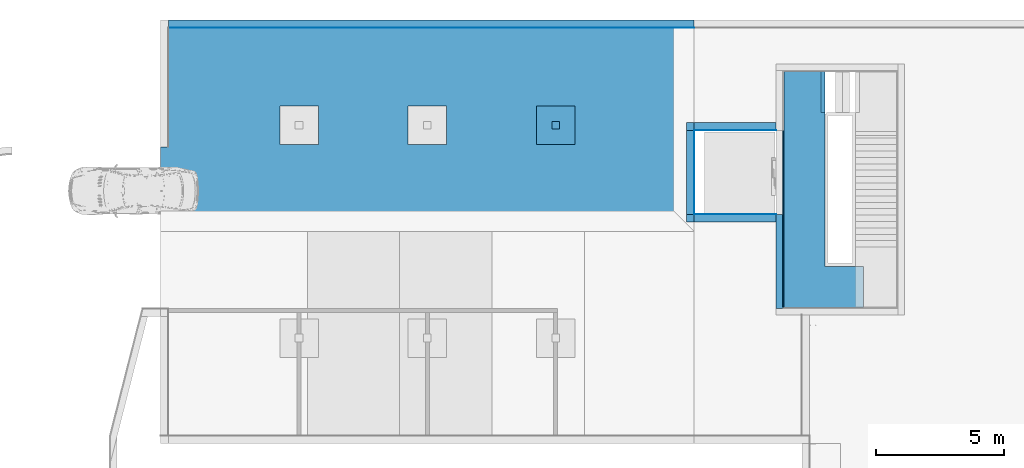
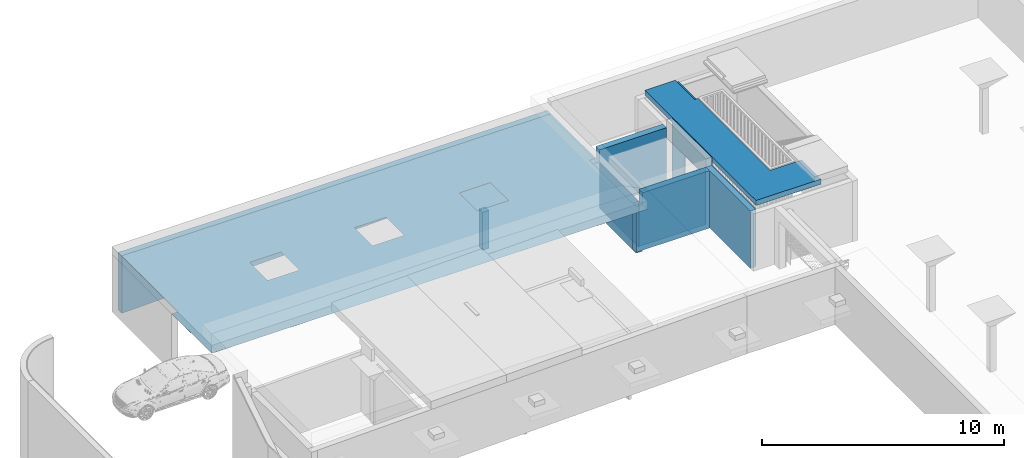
# One storey, part 5 of 7: 16 building element parts, 1 opening, 9 elements without a shape of their own.
"""IFC4 building model written with IfcOpenShell, lengths in millimetres."""

from ifc_helpers import new_model, entity, si_unit, converted_unit, derived_unit, direction, frame, origin_with_axes, place, context, subcontext, project, spatial, polygons, material, type_object, element, aggregate, save


model = new_model("IFC4")

# Units and contexts
model_context = context("Model", 3, precision=0.01, world=origin_with_axes(), true_north=direction((0.0, 1.0)))
body_context = subcontext(model_context, "Body", "Model", "MODEL_VIEW")
ifc_project = project(units=[si_unit("LENGTHUNIT", "METRE", prefix="MILLI"), si_unit("AREAUNIT", "SQUARE_METRE"), si_unit("VOLUMEUNIT", "CUBIC_METRE"), converted_unit("PLANEANGLEUNIT", "DEGREE", entity("IfcPlaneAngleMeasure", 0.0174532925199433), si_unit("PLANEANGLEUNIT", "RADIAN"), dimensions=[0, 0, 0, 0, 0, 0, 0]), converted_unit("TIMEUNIT", "Year", entity("IfcTimeMeasure", 31557600.0), si_unit("TIMEUNIT", "SECOND"), dimensions=[0, 0, 1, 0, 0, 0, 0]), si_unit("MASSUNIT", "GRAM", prefix="KILO"), si_unit("THERMODYNAMICTEMPERATUREUNIT", "DEGREE_CELSIUS"), si_unit("LUMINOUSINTENSITYUNIT", "LUMEN"), si_unit("ENERGYUNIT", "JOULE", prefix="MEGA"), derived_unit("THERMALCONDUCTANCEUNIT", [(si_unit("POWERUNIT", "WATT"), 1), (si_unit("LENGTHUNIT", "METRE"), -1), (si_unit("THERMODYNAMICTEMPERATUREUNIT", "KELVIN"), -1)]), derived_unit("SPECIFICHEATCAPACITYUNIT", [(si_unit("ENERGYUNIT", "JOULE"), 1), (si_unit("MASSUNIT", "GRAM", prefix="KILO"), -1), (si_unit("THERMODYNAMICTEMPERATUREUNIT", "KELVIN"), -1)]), derived_unit("MASSDENSITYUNIT", [(si_unit("MASSUNIT", "GRAM", prefix="KILO"), 1), (si_unit("VOLUMEUNIT", "CUBIC_METRE"), -1)])], contexts=[model_context])

# Site, building, storey
site_placement = place(None, origin_with_axes())
site = spatial("IfcSite", under=ifc_project, at=site_placement, Name="Gelände", CompositionType="ELEMENT")
building_placement = place(site_placement, origin_with_axes())
building = spatial("IfcBuilding", under=site, at=building_placement, Name="Gebäude", CompositionType="ELEMENT")
storey_placement = place(building_placement, frame((0.0, 0.0, -3900.000000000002), z_axis=(0.0, 0.0, 1.0), x_axis=(1.0, 0.0, 0.0)))
storey = spatial("IfcBuildingStorey", under=building, at=storey_placement, Name="UG", CompositionType="ELEMENT", Elevation=-3900.0)

# Footing, building element parts
footing_type = type_object("IfcFootingType", Name="Verschiedene Strukturen - 2 Segmente - 1500 x 1500 x 2569 (1926+642)", PredefinedType="NOTDEFINED")
footing_placement = place(storey_placement, frame((6828.997492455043, 35347.59725747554, 331.46666625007), z_axis=(0.0, 0.0, 1.0), x_axis=(1.0, 0.0, 0.0)))
footing = element("IfcFooting", 1, at=footing_placement, inside=storey, type_object=footing_type, Name="Stütze-014", PredefinedType="NOTDEFINED")
ifc_material_1 = material(Name="Beton bewehrt")
building_element_part_1_placement = place(footing_placement, origin_with_axes())
building_element_part_1 = element("IfcBuildingElementPart", 2, at=building_element_part_1_placement, material=ifc_material_1, Name="Beton bewehrt", PredefinedType="NOTDEFINED", context=body_context, shape_type="Tessellation", body=[
    polygons([(-150.0000000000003, -149.9999999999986, 1926.40000052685), (-150.0000000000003, -149.9999999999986, 0.0), (150.0000000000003, -149.9999999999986, 0.0), (150.0000000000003, -149.9999999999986, 1926.40000052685), (-150.0000000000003, 149.9999999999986, 1926.40000052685), (-150.0000000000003, 149.9999999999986, 0.0), (150.0000000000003, 149.9999999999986, 0.0), (150.0000000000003, 149.9999999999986, 1926.40000052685)], [[[1, 2, 3, 4]], [[5, 6, 2, 1]], [[3, 2, 6, 7]], [[4, 3, 7, 8]], [[5, 1, 4, 8]], [[8, 7, 6, 5]]], closed=True),
])
building_element_part_2_placement = place(footing_placement, origin_with_axes())
building_element_part_2 = element("IfcBuildingElementPart", 3, at=building_element_part_2_placement, material=ifc_material_1, Name="Beton bewehrt", PredefinedType="NOTDEFINED", context=body_context, shape_type="Tessellation", body=[
    polygons([(750.0, -750.0, 2568.5333340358), (-750.0, -750.0, 2568.5333340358), (-150.0000000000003, -149.9999999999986, 1926.40000052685), (150.0000000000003, -149.9999999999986, 1926.40000052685), (750.0, 750.0, 2568.5333340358), (-750.0, 750.0, 2568.5333340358), (-150.0000000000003, 149.9999999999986, 1926.40000052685), (150.0000000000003, 149.9999999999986, 1926.40000052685)], [[[1, 2, 3, 4]], [[5, 6, 2, 1]], [[2, 6, 7, 3]], [[8, 4, 3, 7]], [[5, 1, 4, 8]], [[6, 5, 8, 7]]], closed=True),
])
aggregate(footing, [building_element_part_1, building_element_part_2])

# Wall, building element parts
wall_type_1 = type_object("IfcWallType", Name="Innenwand Typ 07 301", PredefinedType="NOTDEFINED")
wall_1_placement = place(storey_placement, frame((11928.99744477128, 31572.59728131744, 600.0000000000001), z_axis=(0.0, 0.0, 1.0), x_axis=(1.0, 0.0, 0.0)))
wall_1 = element("IfcWall", 4, at=wall_1_placement, inside=storey, type_object=wall_type_1, Name="Wand-014", PredefinedType="NOTDEFINED")
ifc_material_2 = material(Name="Anstrich Innen")
building_element_part_3_placement = place(wall_1_placement, origin_with_axes())
building_element_part_3 = element("IfcBuildingElementPart", 5, at=building_element_part_3_placement, material=ifc_material_2, Name="Anstrich Innen", PredefinedType="NOTDEFINED", context=body_context, shape_type="Tessellation", body=[
    polygons([(300.001181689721, 300.9999998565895, 2700.000051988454), (300.001181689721, 300.9999998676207, 2900.0), (3500.0, 300.9999999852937, 2900.0), (3500.0, 301.0000000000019, 0.0), (299.9999992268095, 300.9999999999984, 0.0), (300.001181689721, 299.9999998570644, 2700.000051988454), (300.001181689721, 299.9999998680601, 2900.0), (299.9999992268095, 300.0000000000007, 0.0), (3500.0, 299.9999999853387, 2900.0), (3500.0, 300.0000000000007, 0.0)], [[[1, 2, 3, 4, 5]], [[6, 7, 2, 1, 5, 8]], [[2, 7, 9, 3]], [[9, 10, 4, 3]], [[4, 10, 8, 5]], [[7, 6, 8, 10, 9]]], closed=True),
])
building_element_part_4_placement = place(wall_1_placement, origin_with_axes())
building_element_part_4 = element("IfcBuildingElementPart", 6, at=building_element_part_4_placement, material=ifc_material_1, Name="Beton bewehrt", PredefinedType="NOTDEFINED", context=body_context, shape_type="Tessellation", body=[
    polygons([(300.001181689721, 299.9999998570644, 2700.000051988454), (300.001181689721, 299.9999998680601, 2900.0), (3500.0, 299.9999999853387, 2900.0), (3500.0, 300.0000000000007, 0.0), (0.0, 300.0000000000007, 0.0), (0.0, 299.9999998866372, 2300.00000028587), (300.0011816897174, 299.9999998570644, 2300.00000028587), (300.001181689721, 0.0, 2700.000051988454), (300.001181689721, 0.0, 2900.0), (300.0011816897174, 0.0, 2300.00000028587), (3500.0, 0.0, 2900.0), (3500.0, 0.0, 0.0), (0.0, 0.0, 0.0), (0.0, 0.0, 2300.00000028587)], [[[1, 2, 3, 4, 5, 6, 7]], [[8, 9, 2, 1, 7, 10]], [[2, 9, 11, 3]], [[11, 12, 4, 3]], [[4, 12, 13, 5]], [[13, 14, 6, 5]], [[10, 7, 6, 14]], [[9, 8, 10, 14, 13, 12, 11]]], closed=True),
])
aggregate(wall_1, [building_element_part_3, building_element_part_4])

wall_2_placement = place(storey_placement, frame((15428.99744477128, 35447.59728131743, 600.0000000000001), z_axis=(0.0, 0.0, 1.0), x_axis=(-1.0, 0.0, 0.0)))
wall_2 = element("IfcWall", 7, at=wall_2_placement, inside=storey, type_object=wall_type_1, Name="Wand-014", PredefinedType="NOTDEFINED")
building_element_part_5_placement = place(wall_2_placement, origin_with_axes())
building_element_part_5 = element("IfcBuildingElementPart", 8, at=building_element_part_5_placement, material=ifc_material_2, Name="Anstrich Innen", PredefinedType="NOTDEFINED", context=body_context, shape_type="Tessellation", body=[
    polygons([(3199.998818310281, 299.9999998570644, 2700.000051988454), (3199.998818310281, 299.9999998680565, 2900.0), (0.0, 299.9999999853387, 2900.0), (0.0, 299.9999999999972, 0.0), (3200.000000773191, 299.9999999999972, 0.0), (3199.998818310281, 300.999999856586, 2700.000051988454), (3199.998818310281, 300.9999998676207, 2900.0), (3200.000000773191, 301.0000000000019, 0.0), (0.0, 300.9999999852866, 2900.0), (0.0, 301.0000000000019, 0.0)], [[[1, 2, 3, 4, 5]], [[6, 7, 2, 1, 5, 8]], [[2, 7, 9, 3]], [[3, 9, 10, 4]], [[4, 10, 8, 5]], [[7, 6, 8, 10, 9]]], closed=True),
])
building_element_part_6_placement = place(wall_2_placement, origin_with_axes())
building_element_part_6 = element("IfcBuildingElementPart", 9, at=building_element_part_6_placement, material=ifc_material_1, Name="Beton bewehrt", PredefinedType="NOTDEFINED", context=body_context, shape_type="Tessellation", body=[
    polygons([(3199.998818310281, 0.0, 2700.000051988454), (3199.998818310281, 0.0, 2900.0), (0.0, 0.0, 2900.0), (0.0, 0.0, 0.0), (3500.0, 0.0, 0.0), (3500.0, 0.0, 2300.00000028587), (3199.998818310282, 0.0, 2300.00000028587), (3199.998818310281, 299.9999998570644, 2700.000051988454), (3199.998818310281, 299.9999998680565, 2900.0), (3199.998818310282, 299.9999998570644, 2300.00000028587), (0.0, 299.9999999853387, 2900.0), (0.0, 299.9999999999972, 0.0), (3500.0, 299.9999999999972, 0.0), (3500.0, 299.9999998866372, 2300.00000028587)], [[[1, 2, 3, 4, 5, 6, 7]], [[8, 9, 2, 1, 7, 10]], [[2, 9, 11, 3]], [[12, 4, 3, 11]], [[4, 12, 13, 5]], [[13, 14, 6, 5]], [[10, 7, 6, 14]], [[9, 8, 10, 14, 13, 12, 11]]], closed=True),
])
aggregate(wall_2, [building_element_part_5, building_element_part_6])

wall_3_placement = place(storey_placement, frame((11928.99744477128, 35447.59728131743, 550.7060048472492), z_axis=(0.0, 0.0, 1.0), x_axis=(0.0, -1.0, 0.0)))
wall_3 = element("IfcWall", 10, at=wall_3_placement, inside=storey, type_object=wall_type_1, Name="Wand-014", PredefinedType="NOTDEFINED")
building_element_part_7_placement = place(wall_3_placement, origin_with_axes())
building_element_part_7 = element("IfcBuildingElementPart", 11, at=building_element_part_7_placement, material=ifc_material_2, Name="Anstrich Innen", PredefinedType="NOTDEFINED", context=body_context, shape_type="Tessellation", body=[
    polygons([(3574.999999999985, 299.9999999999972, 49.2939951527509), (3574.999999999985, 301.0000000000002, 49.2939951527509), (3573.999999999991, 301.0000000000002, 49.2939951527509), (3573.999999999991, 299.9999992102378, 49.2939951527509), (3574.999999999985, 301.0000000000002, 0.0), (3574.999999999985, 299.9999999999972, 0.0), (299.9999999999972, 301.0000000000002, 0.0), (299.9999999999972, 301.0000000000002, 49.2939951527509), (301.0000000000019, 301.0000000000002, 49.2939951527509), (300.9999998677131, 301.0000000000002, 2349.293995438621), (3574.000000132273, 301.0000000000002, 2349.293995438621), (3574.000000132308, 299.9999999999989, 2349.293995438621), (300.9999998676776, 300.0000000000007, 2349.293995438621), (301.0000000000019, 299.9999992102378, 49.2939951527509), (299.9999999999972, 299.9999999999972, 49.2939951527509), (299.9999999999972, 299.9999999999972, 0.0)], [[[1, 2, 3, 4]], [[5, 2, 1, 6]], [[2, 5, 7, 8, 9, 10, 11, 3]], [[4, 3, 11, 12]], [[6, 1, 4, 12, 13, 14, 15, 16]], [[5, 6, 16, 7]], [[15, 8, 7, 16]], [[8, 15, 14, 9]], [[14, 13, 10, 9]], [[11, 10, 13, 12]]], closed=True),
])
building_element_part_8_placement = place(wall_3_placement, origin_with_axes())
building_element_part_8 = element("IfcBuildingElementPart", 12, at=building_element_part_8_placement, material=ifc_material_1, Name="Beton bewehrt", PredefinedType="NOTDEFINED", context=body_context, shape_type="Tessellation", body=[
    polygons([(0.0, 0.0, 0.0), (0.0, 0.0, 49.2939951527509), (0.0, 299.9999992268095, 49.2939951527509), (0.0, 299.9999992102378, 0.0), (299.9999998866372, 0.0, 2349.293995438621), (299.9999999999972, 0.0, 49.2939951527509), (3874.99999999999, 0.0, 0.0), (3874.99999999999, 0.0, 49.2939951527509), (3574.999999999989, 0.0, 49.2939951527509), (3575.000000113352, 0.0, 2349.293995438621), (299.9999999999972, 299.9999992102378, 49.2939951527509), (299.9999998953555, 300.0000000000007, 2349.293995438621), (3575.00000010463, 300.0000000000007, 2349.293995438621), (3574.999999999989, 299.9999992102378, 49.2939951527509), (3874.99999999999, 299.9999992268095, 49.2939951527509), (3874.99999999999, 299.9999992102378, 0.0)], [[[1, 2, 3, 4]], [[5, 6, 2, 1, 7, 8, 9, 10]], [[6, 11, 3, 2]], [[3, 11, 12, 13, 14, 15, 16, 4]], [[1, 4, 16, 7]], [[6, 5, 12, 11]], [[16, 15, 8, 7]], [[8, 15, 14, 9]], [[9, 14, 13, 10]], [[13, 12, 5, 10]]], closed=True),
])
aggregate(wall_3, [building_element_part_7, building_element_part_8])

# Wall, opening, building element part
wall_type_2 = type_object("IfcWallType", Name="Innenwand Typ 06 300", PredefinedType="NOTDEFINED")
wall_4_placement = place(storey_placement, frame((15428.99744477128, 35147.59728131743, 600.0000000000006), z_axis=(0.0, 0.0, 1.0), x_axis=(0.0, -1.0, 0.0)))
wall_4 = element("IfcWall", 13, at=wall_4_placement, inside=storey, type_object=wall_type_2, Name="Wand-014", PredefinedType="NOTDEFINED")
opening_placement = place(wall_4_placement, frame((1670.690851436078, 0.0, 0.0), z_axis=(0.0, 0.0, 1.0), x_axis=(1.0, 0.0, 0.0)))
element("IfcOpeningElement", 14, at=opening_placement, cuts=wall_4, Name="Tür-007", context=body_context, identifier="Reference", shape_type="Tessellation", body=[
    polygons([(600.0000000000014, 301.0000000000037, 2050.0), (600.0000000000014, 301.0000000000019, -600.0000000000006), (-600.0000000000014, 301.0000000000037, -600.0000000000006), (-600.0000000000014, 301.0000000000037, 2050.0), (600.0000000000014, -1.000000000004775, 2050.0), (600.0000000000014, -1.000000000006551, -600.0000000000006), (-600.0000000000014, -1.000000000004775, -600.0000000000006), (-600.0000000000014, -1.000000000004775, 2050.0)], [[[1, 2, 3, 4]], [[5, 6, 2, 1]], [[6, 7, 3, 2]], [[7, 8, 4, 3]], [[8, 5, 1, 4]], [[7, 6, 5, 8]]], closed=True),
])
ifc_material_3 = material(Name="Sichtbeton")
building_element_part_9_placement = place(wall_4_placement, origin_with_axes())
building_element_part_9 = element("IfcBuildingElementPart", 15, at=building_element_part_9_placement, material=ifc_material_3, Name="Sichtbeton", PredefinedType="NOTDEFINED", context=body_context, shape_type="Tessellation", body=[
    polygons([(2270.690851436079, 299.9999999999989, 0.0), (2270.690851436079, 299.9999999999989, 2050.0), (1070.690851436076, 299.9999999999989, 2050.0), (1070.690851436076, 300.0000000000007, 0.0), (0.0, 300.0000000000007, 0.0), (0.0, 300.0000000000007, 3300.000051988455), (3274.999999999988, 299.9999999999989, 3300.000051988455), (3274.999999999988, 299.9999999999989, 0.0), (2270.690851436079, 259.9999999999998, 0.0), (2270.690851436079, 259.9999999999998, 2050.0), (1070.690851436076, 259.9999999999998, 2050.0), (1070.690851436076, 259.9999999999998, 0.0), (0.0, 259.9999999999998, 0.0), (0.0, 259.9999999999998, 3300.000051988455), (3274.999999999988, 259.9999999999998, 3300.000051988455), (3274.999999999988, 259.9999999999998, 0.0)], [[[1, 2, 3, 4, 5, 6, 7, 8]], [[2, 1, 9, 10]], [[3, 2, 10, 11]], [[4, 3, 11, 12]], [[4, 12, 13, 5]], [[13, 14, 6, 5]], [[7, 6, 14, 15]], [[7, 15, 16, 8]], [[9, 1, 8, 16]], [[10, 9, 16, 15, 14, 13, 12, 11]]], closed=True),
])
aggregate(wall_4, [building_element_part_9])

# Wall, building element parts
wall_5_placement = place(storey_placement, frame((15428.99744477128, 31872.59728131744, 600.0000000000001), z_axis=(0.0, 0.0, 1.0), x_axis=(0.0, -1.0, 0.0)))
wall_5 = element("IfcWall", 16, at=wall_5_placement, inside=storey, type_object=wall_type_2, Name="Wand-014", PredefinedType="NOTDEFINED")
building_element_part_10_placement = place(wall_5_placement, origin_with_axes())
building_element_part_10 = element("IfcBuildingElementPart", 17, at=building_element_part_10_placement, material=ifc_material_3, Name="Sichtbeton", PredefinedType="NOTDEFINED", context=body_context, shape_type="Tessellation", body=[
    polygons([(3625.0, 259.9999999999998, 0.0), (0.0, 259.9999999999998, 0.0), (0.0, 300.0000000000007, 0.0), (3625.0, 299.9999999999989, 0.0), (3625.0, 259.9999999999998, 2900.0), (0.0, 259.9999999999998, 2900.0), (0.0, 300.0000000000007, 2900.0), (3625.0, 299.9999999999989, 2900.0)], [[[1, 2, 3, 4]], [[5, 6, 2, 1]], [[3, 2, 6, 7]], [[4, 3, 7, 8]], [[4, 8, 5, 1]], [[8, 7, 6, 5]]], closed=True),
])
building_element_part_11_placement = place(wall_5_placement, origin_with_axes())
building_element_part_11 = element("IfcBuildingElementPart", 18, at=building_element_part_11_placement, material=ifc_material_1, Name="Beton bewehrt", PredefinedType="NOTDEFINED", context=body_context, shape_type="Tessellation", body=[
    polygons([(3664.999999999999, 0.0, 0.0), (0.0, 0.0, 0.0), (0.0, 259.9999999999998, 0.0), (3664.999999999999, 259.9999999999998, 0.0), (3664.999999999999, 0.0, 2900.0), (0.0, 0.0, 2900.0), (0.0, 259.9999999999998, 2900.0), (3664.999999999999, 259.9999999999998, 2900.0)], [[[1, 2, 3, 4]], [[5, 6, 2, 1]], [[3, 2, 6, 7]], [[4, 3, 7, 8]], [[4, 8, 5, 1]], [[8, 7, 6, 5]]], closed=True),
])
aggregate(wall_5, [building_element_part_10, building_element_part_11])

# Slab, building element parts
slab_type_1 = type_object("IfcSlabType", Name="Geschossdecke Typ 04 260", PredefinedType="NOTDEFINED")
slab_1_placement = place(storey_placement, frame((17328.99738625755, 37437.59728330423, 3900.0), z_axis=(0.0, 0.0, 1.0), x_axis=(1.0, 0.0, 0.0)))
slab_1 = element("IfcSlab", 19, at=slab_1_placement, inside=storey, type_object=slab_type_1, Name="Deckennr.-073", PredefinedType="NOTDEFINED")
building_element_part_12_placement = place(slab_1_placement, origin_with_axes())
building_element_part_12 = element("IfcBuildingElementPart", 20, at=building_element_part_12_placement, material=ifc_material_1, Name="Beton bewehrt", PredefinedType="NOTDEFINED", context=body_context, shape_type="Tessellation", body=[
    polygons([(-149.9999414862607, 0.0, 5.198845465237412e-05), (-149.9999414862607, 0.0, -119.9999480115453), (5.851373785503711e-05, 0.0, -119.9999480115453), (0.0, 0.0, -249.9999999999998), (-1599.999941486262, 0.0, -249.9999999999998), (-1599.999941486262, 0.0, 0.0), (-149.9999414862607, -1600.000000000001, 5.198845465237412e-05), (-149.9999414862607, -1600.000000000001, -119.9999480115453), (5.851373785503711e-05, -1600.000000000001, -119.9999480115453), (0.0, -1600.000000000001, 5.198845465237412e-05), (0.0, -7590.000060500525, 0.0), (0.0, -7590.000060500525, -249.9999999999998), (1500.000058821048, -7590.000060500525, -249.9999999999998), (1500.000058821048, -9190.000001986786, -249.9999999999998), (-1599.999941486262, -9190.000001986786, -249.9999999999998), (-1599.999941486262, -9190.000001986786, 0.0), (1500.000058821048, -9190.000001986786, 0.0), (1500.000058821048, -7590.000060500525, 0.0)], [[[1, 2, 3, 4, 5, 6]], [[2, 1, 7, 8]], [[9, 3, 2, 8]], [[9, 10, 11, 12, 4, 3]], [[5, 4, 12, 13, 14, 15]], [[5, 15, 16, 6]], [[7, 1, 6, 16, 17, 18, 11, 10]], [[7, 10, 9, 8]], [[13, 12, 11, 18]], [[14, 13, 18, 17]], [[15, 14, 17, 16]]], closed=True),
])
ifc_material_4 = material(Name="Kalkzementputz Aussen")
building_element_part_13_placement = place(slab_1_placement, origin_with_axes())
building_element_part_13 = element("IfcBuildingElementPart", 21, at=building_element_part_13_placement, material=ifc_material_4, Name="Kalkzementputz Aussen", PredefinedType="NOTDEFINED", context=body_context, shape_type="Tessellation", body=[
    polygons([(0.0, 0.0, -259.9999999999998), (-1599.999941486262, 0.0, -259.9999999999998), (-1599.999941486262, 0.0, -249.9999999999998), (0.0, 0.0, -249.9999999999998), (0.0, -7590.000060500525, -259.9999999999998), (1500.000058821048, -7590.000060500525, -259.9999999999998), (1500.000058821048, -9190.000001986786, -259.9999999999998), (-1599.999941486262, -9190.000001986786, -259.9999999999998), (-1599.999941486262, -9190.000001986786, -249.9999999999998), (1500.000058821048, -9190.000001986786, -249.9999999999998), (1500.000058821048, -7590.000060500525, -249.9999999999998), (0.0, -7590.000060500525, -249.9999999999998)], [[[1, 2, 3, 4]], [[1, 5, 6, 7, 8, 2]], [[2, 8, 9, 3]], [[4, 3, 9, 10, 11, 12]], [[5, 1, 4, 12]], [[6, 5, 12, 11]], [[7, 6, 11, 10]], [[8, 7, 10, 9]]], closed=True),
])
aggregate(slab_1, [building_element_part_12, building_element_part_13])

# Slab, building element part
slab_type_2 = type_object("IfcSlabType", Name="Geschossdecke Typ 08 401", PredefinedType="NOTDEFINED")
slab_2_placement = place(storey_placement, frame((-8571.004157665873, 31197.59699912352, 3300.00000028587), z_axis=(0.0, 0.0, 1.0), x_axis=(1.0, 0.0, 0.0)))
slab_2 = element("IfcSlab", 22, at=slab_2_placement, inside=storey, type_object=slab_type_2, Name="Deckennr.-072", PredefinedType="NOTDEFINED")
building_element_part_14_placement = place(slab_2_placement, origin_with_axes())
building_element_part_14 = element("IfcBuildingElementPart", 23, at=building_element_part_14_placement, material=ifc_material_2, Name="Anstrich Innen", PredefinedType="NOTDEFINED", context=body_context, shape_type="Tessellation", body=[
    polygons([(20500.00160243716, 4250.000282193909, -401.0000000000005), (20500.00160243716, 375.0002821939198, -401.0000000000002), (20800.00272838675, 375.0002821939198, -401.0000000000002), (20800.00278412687, 0.0, -401.0000000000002), (0.0, 0.0, -401.0000000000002), (0.001602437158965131, 3300.000258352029, -401.0000000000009), (300.0016024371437, 3300.000355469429, -401.0), (300.0000971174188, 7950.00025835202, -401.0), (20800.00160243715, 7950.00025835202, -401.0), (20800.00215240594, 4250.000282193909, -401.0000000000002), (14650.93603550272, 3400.934643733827, -401.0000000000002), (16149.06726473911, 3400.934643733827, -401.0000000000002), (16149.06726473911, 4899.065872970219, -401.0000000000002), (14650.93603550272, 4899.065872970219, -401.0000000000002), (9650.885565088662, 3400.88417113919, -401.0000000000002), (11149.11773951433, 3400.88417113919, -401.0000000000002), (11149.11773951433, 4899.116345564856, -401.0000000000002), (9650.885565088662, 4899.116345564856, -401.0000000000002), (4650.840263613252, 3400.838871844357, -401.0000000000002), (6149.163036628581, 3400.838871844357, -401.0000000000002), (6149.163036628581, 4899.161644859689, -401.0000000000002), (4650.840263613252, 4899.161644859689, -401.0000000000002), (20500.00160243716, 375.0002821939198, -400.0000000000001), (20500.00160243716, 4250.000282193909, -400.0000000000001), (20500.00160243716, 3950.000282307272, -400.0000000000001), (20500.00160243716, 675.000282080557, -400.0000000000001), (20800.00272838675, 375.0002821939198, -399.9999975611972), (20800.00278412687, 0.0, -400.0000000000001), (0.0, 0.0, -400.0000000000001), (0.001602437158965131, 3300.000258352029, -399.9999482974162), (300.0016024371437, 3300.000355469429, -399.9999482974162), (300.0000971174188, 7950.00025835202, -399.9999482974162), (20800.00160243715, 7950.00025835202, -399.9999482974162), (20800.00215240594, 4250.000282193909, -399.999972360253), (14650.00165012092, 3400.000258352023, -400.0000000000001), (16150.00165012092, 3400.000258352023, -400.0000000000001), (16150.00165012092, 4900.000258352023, -400.0000000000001), (14650.00165012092, 4900.000258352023, -400.0000000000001), (9650.001652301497, 3400.000258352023, -400.0000000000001), (11150.0016523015, 3400.000258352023, -400.0000000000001), (11150.0016523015, 4900.000258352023, -400.0000000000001), (9650.001652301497, 4900.000258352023, -400.0000000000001), (4650.001650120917, 3400.000258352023, -400.0000000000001), (6150.001650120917, 3400.000258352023, -400.0000000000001), (6150.001650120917, 4900.000258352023, -400.0000000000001), (4650.001650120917, 4900.000258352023, -400.0000000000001)], [[[1, 2, 3, 4, 5, 6, 7, 8, 9, 10], [11, 12, 13, 14], [15, 16, 17, 18], [19, 20, 21, 22]], [[23, 2, 1, 24, 25, 26]], [[2, 23, 27, 3]], [[4, 3, 27, 28]], [[28, 29, 5, 4]], [[29, 30, 6, 5]], [[6, 30, 31, 7]], [[31, 32, 8, 7]], [[8, 32, 33, 9]], [[33, 34, 10, 9]], [[1, 10, 34, 24]], [[35, 36, 12, 11]], [[36, 37, 13, 12]], [[37, 38, 14, 13]], [[11, 14, 38, 35]], [[39, 40, 16, 15]], [[40, 41, 17, 16]], [[41, 42, 18, 17]], [[15, 18, 42, 39]], [[43, 44, 20, 19]], [[44, 45, 21, 20]], [[45, 46, 22, 21]], [[19, 22, 46, 43]], [[23, 26, 25, 24, 34, 33, 32, 31, 30, 29, 28, 27], [35, 38, 37, 36], [39, 42, 41, 40], [43, 46, 45, 44]]], closed=True),
])
aggregate(slab_2, [building_element_part_14])

# Wall, building element parts
wall_type_3 = type_object("IfcWallType", Name="Aussenwand Typ 03 301", PredefinedType="NOTDEFINED")
wall_6_placement = place(storey_placement, frame((12228.99744477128, 39447.59725747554, 2.85869994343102e-07), z_axis=(0.0, 0.0, 1.0), x_axis=(-1.0, 0.0, 0.0)))
wall_6 = element("IfcWall", 24, at=wall_6_placement, inside=storey, type_object=wall_type_3, Name="Wand-013", PredefinedType="NOTDEFINED")
building_element_part_15_placement = place(wall_6_placement, origin_with_axes())
building_element_part_15 = element("IfcBuildingElementPart", 25, at=building_element_part_15_placement, material=ifc_material_1, Name="Beton bewehrt", PredefinedType="NOTDEFINED", context=body_context, shape_type="Tessellation", body=[
    polygons([(-0.0363636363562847, 299.9999999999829, 600.0039997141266), (-0.03636363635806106, 0.0, 600.0039997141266), (0.0, 0.0, 2900.000051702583), (0.0, 299.9999999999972, 2900.000051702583), (109.1272727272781, 299.9999999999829, 587.9959997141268), (20500.00160243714, 0.0, 0.0), (20500.00160243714, 0.0, 2900.000051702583), (20454.54546430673, 0.0, 0.0), (20500.00150531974, 299.9999999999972, 2900.000051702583), (20500.00150531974, 299.9999999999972, 0.0), (20154.54546430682, 299.9999999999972, 0.0)], [[[1, 2, 3, 4]], [[5, 2, 1]], [[6, 7, 3, 2, 8]], [[4, 3, 7, 9]], [[5, 1, 4, 9, 10, 11]], [[2, 5, 11, 8]], [[9, 7, 6, 10]], [[11, 10, 6, 8]]], closed=True),
])
building_element_part_16_placement = place(wall_6_placement, origin_with_axes())
building_element_part_16 = element("IfcBuildingElementPart", 26, at=building_element_part_16_placement, material=ifc_material_2, Name="Anstrich Innen", PredefinedType="NOTDEFINED", context=body_context, shape_type="Tessellation", body=[
    polygons([(-0.0002445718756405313, 301.0000000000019, 600.000026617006), (-0.0002445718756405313, 299.9999999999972, 600.000026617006), (-0.001181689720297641, 299.9999999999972, 2899.0), (-0.001181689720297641, 301.0000000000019, 2899.0), (109.0909174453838, 299.9999999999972, 587.9999987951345), (109.1272727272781, 301.0000000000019, 587.9959997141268), (109.1272727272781, 300.0999770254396, 587.9959997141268), (20154.54546430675, 299.9999999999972, 0.0), (20499.00150531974, 299.9999999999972, 0.0), (20499.00150531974, 299.9999999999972, 2899.0), (20499.00150499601, 301.0000000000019, 2899.0), (20499.00150499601, 301.0000000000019, 0.0), (20153.54546430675, 301.0000000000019, 0.0), (109.1272727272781, 301.0000000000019, 587.9695990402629)], [[[1, 2, 3, 4]], [[5, 2, 1, 6, 7]], [[2, 5, 8, 9, 10, 3]], [[3, 10, 11, 4]], [[6, 1, 4, 11, 12, 13, 14]], [[14, 7, 6]], [[7, 14, 13, 8, 5]], [[13, 12, 9, 8]], [[10, 9, 12, 11]]], closed=True),
])
aggregate(wall_6, [building_element_part_15, building_element_part_16])

save(model, "model.ifc")
